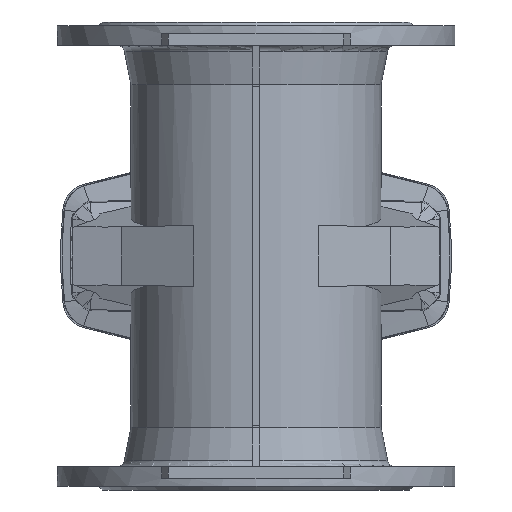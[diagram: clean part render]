
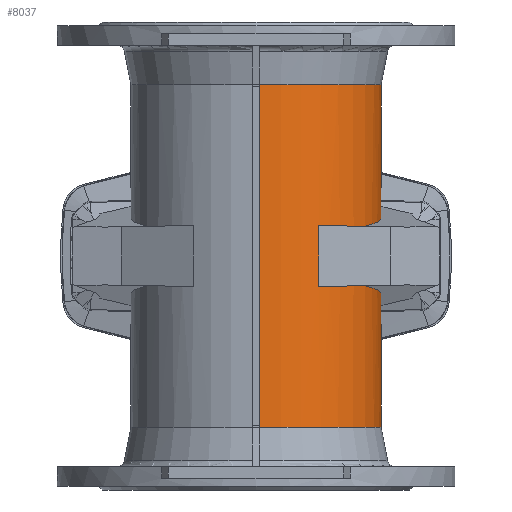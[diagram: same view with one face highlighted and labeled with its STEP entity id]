
A CAD part, front view. The second image highlights one B-rep face of the part: STEP entity #8037.
In plain terms, the highlighted cylindrical face has radius 107 mm (diameter 214 mm), a partial arc.
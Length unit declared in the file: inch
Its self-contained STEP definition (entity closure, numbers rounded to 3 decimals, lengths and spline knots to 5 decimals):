
#594 = CARTESIAN_POINT ( 'NONE',  ( 0.11811, 4.21094, -5.75916 ) ) ;
#1496 = ORIENTED_EDGE ( 'NONE', *, *, #2099, .F. ) ;
#1497 = ORIENTED_EDGE ( 'NONE', *, *, #2100, .F. ) ;
#1498 = ORIENTED_EDGE ( 'NONE', *, *, #2101, .F. ) ;
#1499 = ORIENTED_EDGE ( 'NONE', *, *, #2102, .T. ) ;
#1500 = ORIENTED_EDGE ( 'NONE', *, *, #2103, .T. ) ;
#1501 = ORIENTED_EDGE ( 'NONE', *, *, #2104, .F. ) ;
#1502 = ORIENTED_EDGE ( 'NONE', *, *, #2105, .F. ) ;
#1503 = ORIENTED_EDGE ( 'NONE', *, *, #2106, .F. ) ;
#1504 = ORIENTED_EDGE ( 'NONE', *, *, #2107, .T. ) ;
#1505 = ORIENTED_EDGE ( 'NONE', *, *, #2108, .T. ) ;
#2099 = EDGE_CURVE ( 'NONE', #8382, #3801, #7567, .T. ) ;
#2100 = EDGE_CURVE ( 'NONE', #9260, #8382, #7568, .T. ) ;
#2101 = EDGE_CURVE ( 'NONE', #3670, #9260, #7558, .T. ) ;
#2102 = EDGE_CURVE ( 'NONE', #3670, #3807, #6603, .T. ) ;
#2103 = EDGE_CURVE ( 'NONE', #3807, #8425, #6647, .T. ) ;
#2104 = EDGE_CURVE ( 'NONE', #3733, #8425, #7570, .T. ) ;
#2105 = EDGE_CURVE ( 'NONE', #3923, #3733, #6803, .T. ) ;
#2106 = EDGE_CURVE ( 'NONE', #3681, #3923, #6802, .T. ) ;
#2107 = EDGE_CURVE ( 'NONE', #3681, #3706, #7575, .T. ) ;
#2108 = EDGE_CURVE ( 'NONE', #3706, #3801, #7574, .T. ) ;
#3090 = CARTESIAN_POINT ( 'NONE',  ( 0.11811, 4.21094, -1.9474 ) ) ;
#3101 = CARTESIAN_POINT ( 'NONE',  ( 0.11811, 4.21094, 1.9474 ) ) ;
#3126 = CARTESIAN_POINT ( 'NONE',  ( 0.11811, 4.21094, 5.75916 ) ) ;
#3153 = CARTESIAN_POINT ( 'NONE',  ( 2.1063, -3.64822, 1.02623 ) ) ;
#3221 = CARTESIAN_POINT ( 'NONE',  ( 0.11811, -4.21094, 5.75916 ) ) ;
#3227 = CARTESIAN_POINT ( 'NONE',  ( 3.65625, -2.09232, -0.99917 ) ) ;
#3301 = CARTESIAN_POINT ( 'NONE',  ( 3.65625, -2.09232, 0.99917 ) ) ;
#3579 = DIRECTION ( 'NONE',  ( -1., 0., 0. ) ) ;
#3586 = DIRECTION ( 'NONE',  ( 0., 0., 1. ) ) ;
#3587 = CARTESIAN_POINT ( 'NONE',  ( 0., 0., 0. ) ) ;
#3670 = VERTEX_POINT ( 'NONE', #3090 ) ;
#3681 = VERTEX_POINT ( 'NONE', #3101 ) ;
#3706 = VERTEX_POINT ( 'NONE', #3126 ) ;
#3733 = VERTEX_POINT ( 'NONE', #3153 ) ;
#3801 = VERTEX_POINT ( 'NONE', #3221 ) ;
#3807 = VERTEX_POINT ( 'NONE', #3227 ) ;
#3923 = VERTEX_POINT ( 'NONE', #3301 ) ;
#4955 = EDGE_LOOP ( 'NONE', ( #1496, #1497, #1498, #1499, #1500, #1501, #1502, #1503, #1504, #1505 ) ) ;
#5916 = AXIS2_PLACEMENT_3D ( 'NONE', #3587, #3586, #3579 ) ;
#6603 =( BOUNDED_CURVE ( )  B_SPLINE_CURVE ( 3, ( #12542, #12536, #12535, #12544 ),
 .UNSPECIFIED., .F., .F. ) 
 B_SPLINE_CURVE_WITH_KNOTS ( ( 4, 4 ),
 ( 0.15281, 2.21534 ),
 .UNSPECIFIED. ) 
 CURVE ( )  GEOMETRIC_REPRESENTATION_ITEM ( )  RATIONAL_B_SPLINE_CURVE ( ( 1., 0.676, 0.676, 1. ) ) 
 REPRESENTATION_ITEM ( '' )  );
#6647 =( BOUNDED_CURVE ( )  B_SPLINE_CURVE ( 3, ( #12546, #12541, #12548, #12549 ),
 .UNSPECIFIED., .F., .F. ) 
 B_SPLINE_CURVE_WITH_KNOTS ( ( 4, 4 ),
 ( 3.66136, 4.18879 ),
 .UNSPECIFIED. ) 
 CURVE ( )  GEOMETRIC_REPRESENTATION_ITEM ( )  RATIONAL_B_SPLINE_CURVE ( ( 1., 0.977, 0.977, 1. ) ) 
 REPRESENTATION_ITEM ( '' )  );
#6802 =( BOUNDED_CURVE ( )  B_SPLINE_CURVE ( 3, ( #12556, #12545, #12558, #12559 ),
 .UNSPECIFIED., .F., .F. ) 
 B_SPLINE_CURVE_WITH_KNOTS ( ( 4, 4 ),
 ( 0.15281, 2.21534 ),
 .UNSPECIFIED. ) 
 CURVE ( )  GEOMETRIC_REPRESENTATION_ITEM ( )  RATIONAL_B_SPLINE_CURVE ( ( 1., 0.676, 0.676, 1. ) ) 
 REPRESENTATION_ITEM ( '' )  );
#6803 =( BOUNDED_CURVE ( )  B_SPLINE_CURVE ( 3, ( #12553, #12550, #12543, #12554 ),
 .UNSPECIFIED., .F., .F. ) 
 B_SPLINE_CURVE_WITH_KNOTS ( ( 4, 4 ),
 ( 3.66136, 4.18879 ),
 .UNSPECIFIED. ) 
 CURVE ( )  GEOMETRIC_REPRESENTATION_ITEM ( )  RATIONAL_B_SPLINE_CURVE ( ( 1., 0.977, 0.977, 1. ) ) 
 REPRESENTATION_ITEM ( '' )  );
#7558 = LINE ( 'NONE', #12537, #7571 ) ;
#7567 = LINE ( 'NONE', #12510, #7569 ) ;
#7568 = CIRCLE ( 'NONE', #13812, 4.2126 ) ;
#7569 = VECTOR ( 'NONE', #12512, 39.37008 ) ;
#7570 = LINE ( 'NONE', #12547, #7572 ) ;
#7571 = VECTOR ( 'NONE', #12531, 39.37008 ) ;
#7572 = VECTOR ( 'NONE', #12551, 39.37008 ) ;
#7574 = CIRCLE ( 'NONE', #13813, 4.2126 ) ;
#7575 = LINE ( 'NONE', #12555, #7576 ) ;
#7576 = VECTOR ( 'NONE', #12557, 39.37008 ) ;
#7754 = FACE_OUTER_BOUND ( 'NONE', #4955, .T. ) ;
#7770 = CYLINDRICAL_SURFACE ( 'NONE', #5916, 4.2126 ) ;
#8037 = ADVANCED_FACE ( 'NONE', ( #7754 ), #7770, .T. ) ;
#8382 = VERTEX_POINT ( 'NONE', #9686 ) ;
#8425 = VERTEX_POINT ( 'NONE', #9690 ) ;
#9260 = VERTEX_POINT ( 'NONE', #594 ) ;
#9686 = CARTESIAN_POINT ( 'NONE',  ( 0.11811, -4.21094, -5.75916 ) ) ;
#9690 = CARTESIAN_POINT ( 'NONE',  ( 2.1063, -3.64822, -1.02623 ) ) ;
#12510 = CARTESIAN_POINT ( 'NONE',  ( 0.11811, -4.21094, 0. ) ) ;
#12512 = DIRECTION ( 'NONE',  ( 0., 0., 1. ) ) ;
#12531 = DIRECTION ( 'NONE',  ( 0., 0., -1. ) ) ;
#12535 = CARTESIAN_POINT ( 'NONE',  ( 5.42704, 1.00205, -1.40285 ) ) ;
#12536 = CARTESIAN_POINT ( 'NONE',  ( 3.68193, 4.11098, -1.87054 ) ) ;
#12537 = CARTESIAN_POINT ( 'NONE',  ( 0.11811, 4.21094, 0. ) ) ;
#12538 = CARTESIAN_POINT ( 'NONE',  ( 0., 0., -5.75916 ) ) ;
#12539 = DIRECTION ( 'NONE',  ( 0., 0., -1. ) ) ;
#12540 = DIRECTION ( 'NONE',  ( -1., 0., 0. ) ) ;
#12541 = CARTESIAN_POINT ( 'NONE',  ( 3.28407, -2.74269, -1.00567 ) ) ;
#12542 = CARTESIAN_POINT ( 'NONE',  ( 0.11811, 4.21094, -1.9474 ) ) ;
#12543 = CARTESIAN_POINT ( 'NONE',  ( 2.75523, -3.27355, 1.0149 ) ) ;
#12544 = CARTESIAN_POINT ( 'NONE',  ( 3.65625, -2.09232, -0.99917 ) ) ;
#12545 = CARTESIAN_POINT ( 'NONE',  ( 3.68193, 4.11098, 1.87054 ) ) ;
#12546 = CARTESIAN_POINT ( 'NONE',  ( 3.65625, -2.09232, -0.99917 ) ) ;
#12547 = CARTESIAN_POINT ( 'NONE',  ( 2.1063, -3.64822, 7.87402 ) ) ;
#12548 = CARTESIAN_POINT ( 'NONE',  ( 2.75523, -3.27355, -1.0149 ) ) ;
#12549 = CARTESIAN_POINT ( 'NONE',  ( 2.1063, -3.64822, -1.02623 ) ) ;
#12550 = CARTESIAN_POINT ( 'NONE',  ( 3.28407, -2.74269, 1.00567 ) ) ;
#12551 = DIRECTION ( 'NONE',  ( 0., 0., -1. ) ) ;
#12553 = CARTESIAN_POINT ( 'NONE',  ( 3.65625, -2.09232, 0.99917 ) ) ;
#12554 = CARTESIAN_POINT ( 'NONE',  ( 2.1063, -3.64822, 1.02623 ) ) ;
#12555 = CARTESIAN_POINT ( 'NONE',  ( 0.11811, 4.21094, 0. ) ) ;
#12556 = CARTESIAN_POINT ( 'NONE',  ( 0.11811, 4.21094, 1.9474 ) ) ;
#12557 = DIRECTION ( 'NONE',  ( 0., 0., 1. ) ) ;
#12558 = CARTESIAN_POINT ( 'NONE',  ( 5.42704, 1.00205, 1.40285 ) ) ;
#12559 = CARTESIAN_POINT ( 'NONE',  ( 3.65625, -2.09232, 0.99917 ) ) ;
#12563 = CARTESIAN_POINT ( 'NONE',  ( 0., 0., 5.75916 ) ) ;
#12564 = DIRECTION ( 'NONE',  ( 0., 0., -1. ) ) ;
#12565 = DIRECTION ( 'NONE',  ( -1., 0., 0. ) ) ;
#13812 = AXIS2_PLACEMENT_3D ( 'NONE', #12538, #12539, #12540 ) ;
#13813 = AXIS2_PLACEMENT_3D ( 'NONE', #12563, #12564, #12565 ) ;
